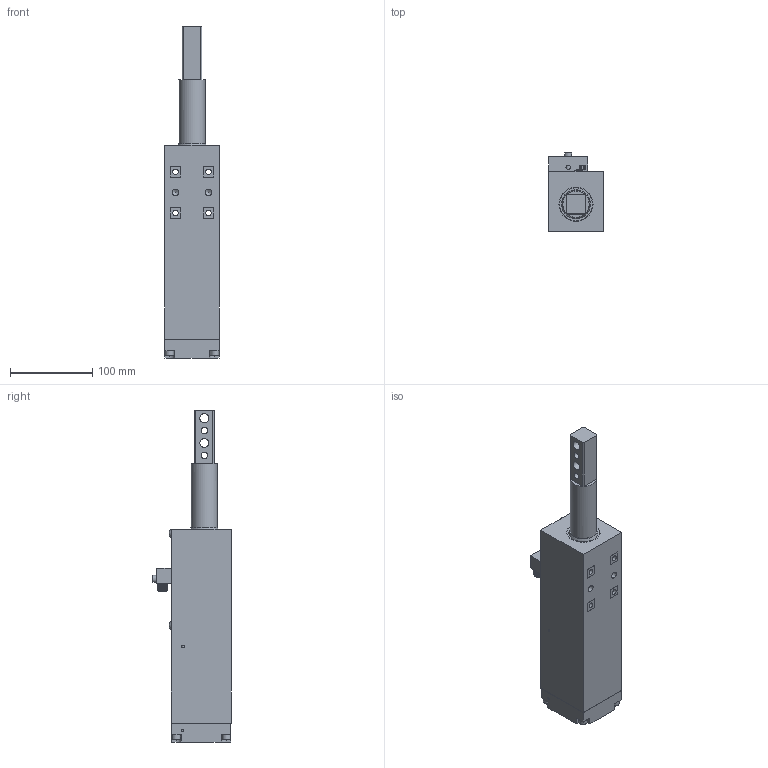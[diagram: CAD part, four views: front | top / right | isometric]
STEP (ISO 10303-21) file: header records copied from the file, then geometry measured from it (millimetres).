
FILE_DESCRIPTION(/* description */ (''),/* implementation_level */ '2;1');
FILE_NAME(/* name */ 'Z:\CAD-Zaytran\Product\LSA\LSA - 72\STEP Files\LSA-72 75mm\LSA-72 75mm Extend Holes Horizontal.stp',/* time_stamp */ '2020-12-30T09:14:32-05:00',/* author */ ('ZaytranCAD2'),/* organization */ (''),/* preprocessor_version */ 'ST-DEVELOPER v17',/* originating_system */ 'Autodesk Inventor 2019',/* authorisation */ '');
FILE_SCHEMA (('AUTOMOTIVE_DESIGN { 1 0 10303 214 3 1 1 }'));
Length unit declared in the file: inch
Products named in the file (22): LSA-72 75mm Assembly; LSA-72 Long Body; LSA-72 Long Shaft; LSA-72 Anti Rotation Block; LSA-72 End Cap; LSA-72 Piston; M10 Hex Nut; .375 Black Oxide 18-8 Stainless Steel Washer; M10 Washer; Turck Sensor; Chicklet - New; AS 1420 - 1973 - M6 x 25; Long Sensor Cover; 5.0x8mm Button Head Screw; 1.25 Dia Oring; Press Seal Ring; .3125 O Ring; .125 Ball Bearing; M8x30mm SHCS; AS 1420 - 1973 - M3 x 6; AS 1420 - 1973 - M5 x 25; Rod Wiper
Assembly tree (27 placements, depth 2):
  LSA-72 75mm Assembly
    LSA-72 Long Body
    LSA-72 Long Shaft
    LSA-72 Anti Rotation Block
    LSA-72 End Cap
    LSA-72 Piston
    M10 Hex Nut
    .375 Black Oxide 18-8 Stainless Steel Washer
    M10 Washer
    Turck Sensor
    Chicklet - New  x2
    AS 1420 - 1973 - M6 x 25  x4
    Long Sensor Cover
    5.0x8mm Button Head Screw  x2
    1.25 Dia Oring
    Press Seal Ring
    .3125 O Ring
    .125 Ball Bearing  x2
    M8x30mm SHCS
    AS 1420 - 1973 - M3 x 6
    AS 1420 - 1973 - M5 x 25
    Rod Wiper
Bounding box: 66 x 96 x 403.01 mm (x, y, z)
Volume: 1023947.4 mm3; surface area: 220472 mm2
Topology: 27 solids, 27 shells, 1035 faces, 2849 edges, 1912 vertices
Faces by surface type: plane 373, cylinder 294, cone 218, bspline 121, torus 25, sphere 4
Full cylindrical faces by diameter (mm): 1 x8, 1.587 x2, 2 x2, 2.2 x4, 2.464 x4, 3 x1, 3.048 x2, 3.099 x2, 3.175 x2, 3.961 x20, 4.14 x2, 4.47 x1, 4.762 x1, 4.928 x4, 5 x19, 5.3 x4, 5.5 x1, 6 x4, 6.248 x4, 6.655 x5, 6.701 x28, 6.756 x4, 7.938 x1, 8 x33, 8.3 x1, 8.331 x1, 8.5 x1, 8.56 x2, 9.5 x2, 9.652 x1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
Entity records: 41570 total; most frequent: CARTESIAN_POINT 17777, ORIENTED_EDGE 5106, DIRECTION 4383, EDGE_CURVE 2553, AXIS2_PLACEMENT_3D 1736, VERTEX_POINT 1719, EDGE_LOOP 1056, FACE_OUTER_BOUND 930
